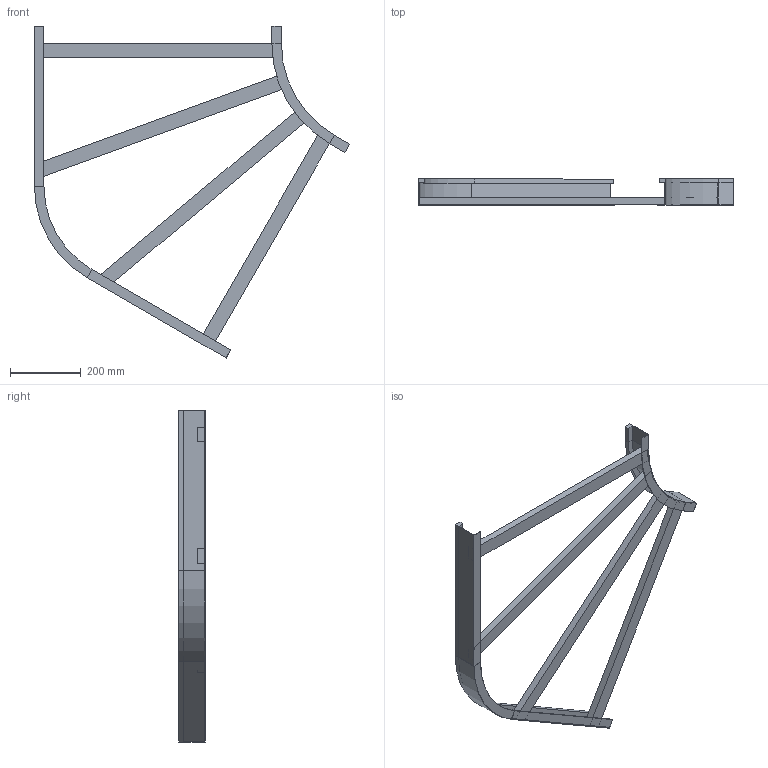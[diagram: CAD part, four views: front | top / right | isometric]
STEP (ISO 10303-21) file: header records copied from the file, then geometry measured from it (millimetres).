
FILE_DESCRIPTION (( 'STEP AP214' ), '1' );
FILE_NAME ('B2_13B3C700.step', '2025-02-21T15:21:57', ( '' ), ( '' ), 'SwSTEP 2.0', 'SolidWorks 2023', '' );
FILE_SCHEMA (( 'AUTOMOTIVE_DESIGN' ));
Length unit declared in the file: millimetre
Products named in the file (5): B2_LONGH.INTERNO 60°_H75_R300; TRAVERSINO_800_SCANTONATO; B2_LONGH.ESTERNO 60°_H75_R300+700; B2_13B3C700; TRAVERSINO_700
Assembly tree (6 placements, depth 2):
  B2_13B3C700
    B2_LONGH.INTERNO 60°_H75_R300
    B2_LONGH.ESTERNO 60°_H75_R300+700
    TRAVERSINO_700  x2
    TRAVERSINO_800_SCANTONATO  x2
Bounding box: 893.3 x 75 x 941.03 mm (x, y, z)
Volume: 3001080.7 mm3; surface area: 746868.2 mm2
Topology: 6 solids, 6 shells, 76 faces, 160 edges, 96 vertices
Faces by surface type: plane 68, cylinder 8
Entity records: 1830 total; most frequent: DIRECTION 298, CARTESIAN_POINT 289, ORIENTED_EDGE 272, EDGE_CURVE 136, LINE 120, VECTOR 120, AXIS2_PLACEMENT_3D 89, VERTEX_POINT 80
